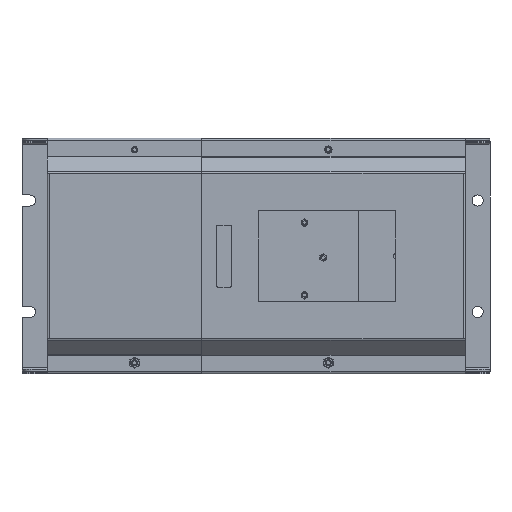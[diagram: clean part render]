
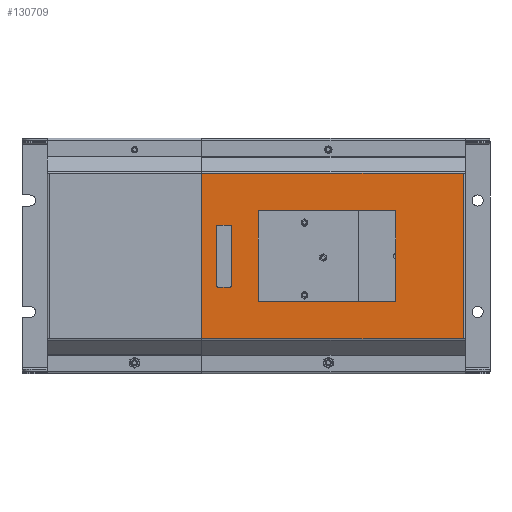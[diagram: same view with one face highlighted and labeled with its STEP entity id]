
A CAD part, front view. The second image highlights one B-rep face of the part: STEP entity #130709.
In plain terms, the highlighted planar face has unit normal (0, -1, 0) as drawn and (0, 0, 1) by its records, which use the part's own axes.
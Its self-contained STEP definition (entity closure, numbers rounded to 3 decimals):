
#128714=DIRECTION('',(-1.,0.,0.));
#128715=VECTOR('',#128714,73.5);
#128716=CARTESIAN_POINT('',(106.834,222.522,0.));
#128717=LINE('',#128716,#128715);
#128721=DIRECTION('',(0.,-1.,0.));
#128722=VECTOR('',#128721,111.5);
#128723=CARTESIAN_POINT('',(33.334,222.522,0.));
#128724=LINE('',#128723,#128722);
#128728=DIRECTION('',(1.,0.,0.));
#128729=VECTOR('',#128728,73.5);
#128730=CARTESIAN_POINT('',(33.334,111.022,0.));
#128731=LINE('',#128730,#128729);
#128735=DIRECTION('',(0.,1.,0.));
#128736=VECTOR('',#128735,111.5);
#128737=CARTESIAN_POINT('',(106.834,111.022,0.));
#128738=LINE('',#128737,#128736);
#128742=DIRECTION('',(1.,0.,0.));
#128743=VECTOR('',#128742,133.592);
#128744=CARTESIAN_POINT('',(3.204,65.522,0.));
#128745=LINE('',#128744,#128743);
#128749=DIRECTION('',(0.,1.,0.));
#128750=VECTOR('',#128749,10.);
#128751=CARTESIAN_POINT('',(45.,78.522,0.));
#128752=LINE('',#128751,#128750);
#128756=CARTESIAN_POINT('',(46.,78.522,0.));
#128757=DIRECTION('',(0.,0.,1.));
#128758=DIRECTION('',(-1.,0.,0.));
#128759=AXIS2_PLACEMENT_3D('',#128756,#128757,#128758);
#128764=DIRECTION('',(-1.,0.,0.));
#128765=VECTOR('',#128764,48.);
#128766=CARTESIAN_POINT('',(94.,77.522,0.));
#128767=LINE('',#128766,#128765);
#128771=CARTESIAN_POINT('',(94.,78.522,0.));
#128772=DIRECTION('',(0.,0.,1.));
#128773=DIRECTION('',(0.,-1.,0.));
#128774=AXIS2_PLACEMENT_3D('',#128771,#128772,#128773);
#128779=DIRECTION('',(0.,-1.,0.));
#128780=VECTOR('',#128779,10.);
#128781=CARTESIAN_POINT('',(95.,88.522,0.));
#128782=LINE('',#128781,#128780);
#128786=CARTESIAN_POINT('',(94.,88.522,0.));
#128787=DIRECTION('',(0.,0.,1.));
#128788=DIRECTION('',(1.,0.,0.));
#128789=AXIS2_PLACEMENT_3D('',#128786,#128787,#128788);
#128794=DIRECTION('',(1.,0.,0.));
#128795=VECTOR('',#128794,48.);
#128796=CARTESIAN_POINT('',(46.,89.522,0.));
#128797=LINE('',#128796,#128795);
#128801=CARTESIAN_POINT('',(46.,88.522,0.));
#128802=DIRECTION('',(0.,0.,1.));
#128803=DIRECTION('',(0.,1.,0.));
#128804=AXIS2_PLACEMENT_3D('',#128801,#128802,#128803);
#128954=DIRECTION('',(0.,1.,0.));
#128955=VECTOR('',#128954,211.3);
#128956=CARTESIAN_POINT('',(136.796,65.522,0.));
#128957=LINE('',#128956,#128955);
#129012=DIRECTION('',(1.,0.,0.));
#129013=VECTOR('',#129012,133.592);
#129014=CARTESIAN_POINT('',(3.204,276.822,0.));
#129015=LINE('',#129014,#129013);
#129332=DIRECTION('',(0.,-1.,0.));
#129333=VECTOR('',#129332,211.3);
#129334=CARTESIAN_POINT('',(3.204,276.822,0.));
#129335=LINE('',#129334,#129333);
#130450=CARTESIAN_POINT('',(106.834,222.522,0.));
#130451=CARTESIAN_POINT('',(33.334,222.522,0.));
#130452=VERTEX_POINT('',#130450);
#130453=VERTEX_POINT('',#130451);
#130454=CARTESIAN_POINT('',(33.334,111.022,0.));
#130455=VERTEX_POINT('',#130454);
#130456=CARTESIAN_POINT('',(106.834,111.022,0.));
#130457=VERTEX_POINT('',#130456);
#130466=CARTESIAN_POINT('',(136.796,276.822,0.));
#130467=VERTEX_POINT('',#130466);
#130470=CARTESIAN_POINT('',(3.204,276.822,0.));
#130471=VERTEX_POINT('',#130470);
#130522=CARTESIAN_POINT('',(3.204,65.522,0.));
#130523=CARTESIAN_POINT('',(136.796,65.522,0.));
#130524=VERTEX_POINT('',#130522);
#130525=VERTEX_POINT('',#130523);
#130602=CARTESIAN_POINT('',(45.,78.522,0.));
#130603=CARTESIAN_POINT('',(45.,88.522,0.));
#130604=VERTEX_POINT('',#130602);
#130605=VERTEX_POINT('',#130603);
#130606=CARTESIAN_POINT('',(46.,89.522,0.));
#130607=CARTESIAN_POINT('',(94.,89.522,0.));
#130608=VERTEX_POINT('',#130606);
#130609=VERTEX_POINT('',#130607);
#130610=CARTESIAN_POINT('',(95.,88.522,0.));
#130611=CARTESIAN_POINT('',(95.,78.522,0.));
#130612=VERTEX_POINT('',#130610);
#130613=VERTEX_POINT('',#130611);
#130614=CARTESIAN_POINT('',(94.,77.522,0.));
#130615=CARTESIAN_POINT('',(46.,77.522,0.));
#130616=VERTEX_POINT('',#130614);
#130617=VERTEX_POINT('',#130615);
#130666=CARTESIAN_POINT('',(0.,109.522,0.));
#130667=DIRECTION('',(0.,0.,1.));
#130668=DIRECTION('',(1.,0.,0.));
#130669=AXIS2_PLACEMENT_3D('',#130666,#130667,#130668);
#130670=PLANE('',#130669);
#130672=ORIENTED_EDGE('',*,*,#130671,.F.);
#130674=ORIENTED_EDGE('',*,*,#130673,.F.);
#130676=ORIENTED_EDGE('',*,*,#130675,.T.);
#130678=ORIENTED_EDGE('',*,*,#130677,.F.);
#130679=EDGE_LOOP('',(#130672,#130674,#130676,#130678));
#130680=FACE_OUTER_BOUND('',#130679,.F.);
#130682=ORIENTED_EDGE('',*,*,#130681,.T.);
#130684=ORIENTED_EDGE('',*,*,#130683,.T.);
#130686=ORIENTED_EDGE('',*,*,#130685,.T.);
#130688=ORIENTED_EDGE('',*,*,#130687,.T.);
#130689=EDGE_LOOP('',(#130682,#130684,#130686,#130688));
#130690=FACE_BOUND('',#130689,.F.);
#130692=ORIENTED_EDGE('',*,*,#130691,.F.);
#130694=ORIENTED_EDGE('',*,*,#130693,.T.);
#130696=ORIENTED_EDGE('',*,*,#130695,.F.);
#130698=ORIENTED_EDGE('',*,*,#130697,.T.);
#130700=ORIENTED_EDGE('',*,*,#130699,.F.);
#130702=ORIENTED_EDGE('',*,*,#130701,.T.);
#130704=ORIENTED_EDGE('',*,*,#130703,.F.);
#130706=ORIENTED_EDGE('',*,*,#130705,.T.);
#130707=EDGE_LOOP('',(#130692,#130694,#130696,#130698,#130700,#130702,#130704,
#130706));
#130708=FACE_BOUND('',#130707,.F.);
#130709=ADVANCED_FACE('',(#130680,#130690,#130708),#130670,.T.);
#128760=CIRCLE('',#128759,1.);
#128775=CIRCLE('',#128774,1.);
#128790=CIRCLE('',#128789,1.);
#128805=CIRCLE('',#128804,1.);
#130671=EDGE_CURVE('',#130524,#130525,#128745,.T.);
#130673=EDGE_CURVE('',#130471,#130524,#129335,.T.);
#130675=EDGE_CURVE('',#130471,#130467,#129015,.T.);
#130677=EDGE_CURVE('',#130525,#130467,#128957,.T.);
#130681=EDGE_CURVE('',#130452,#130453,#128717,.T.);
#130683=EDGE_CURVE('',#130453,#130455,#128724,.T.);
#130685=EDGE_CURVE('',#130455,#130457,#128731,.T.);
#130687=EDGE_CURVE('',#130457,#130452,#128738,.T.);
#130691=EDGE_CURVE('',#130604,#130605,#128752,.T.);
#130693=EDGE_CURVE('',#130604,#130617,#128760,.T.);
#130695=EDGE_CURVE('',#130616,#130617,#128767,.T.);
#130697=EDGE_CURVE('',#130616,#130613,#128775,.T.);
#130699=EDGE_CURVE('',#130612,#130613,#128782,.T.);
#130701=EDGE_CURVE('',#130612,#130609,#128790,.T.);
#130703=EDGE_CURVE('',#130608,#130609,#128797,.T.);
#130705=EDGE_CURVE('',#130608,#130605,#128805,.T.);
